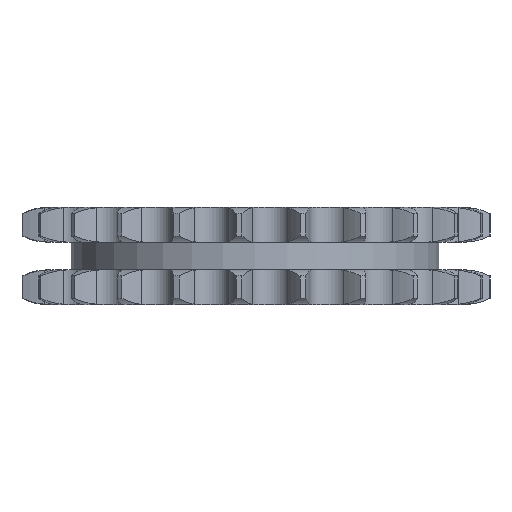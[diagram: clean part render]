
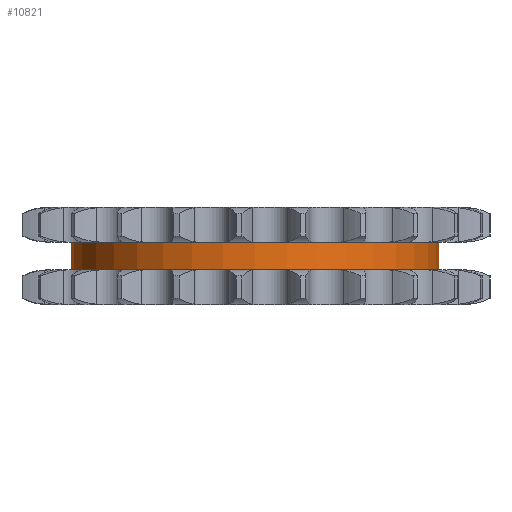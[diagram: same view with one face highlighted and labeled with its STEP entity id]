
A CAD part, left-side view. The second image highlights one B-rep face of the part: STEP entity #10821.
In plain terms, the highlighted cylindrical face has radius 48.292 mm (diameter 96.585 mm), a partial arc.
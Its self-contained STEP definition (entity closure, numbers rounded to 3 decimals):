
#2372=DIRECTION('',(0.,0.,-1.));
#2373=VECTOR('',#2372,7.3);
#2374=CARTESIAN_POINT('',(0.,48.293,3.65));
#2375=LINE('',#2374,#2373);
#2379=CARTESIAN_POINT('',(0.,0.,3.65));
#2380=DIRECTION('',(0.,0.,1.));
#2381=DIRECTION('',(0.,1.,0.));
#2382=AXIS2_PLACEMENT_3D('',#2379,#2380,#2381);
#2387=DIRECTION('',(0.,0.,-1.));
#2388=VECTOR('',#2387,7.3);
#2389=CARTESIAN_POINT('',(0.,-48.293,3.65));
#2390=LINE('',#2389,#2388);
#2394=CARTESIAN_POINT('',(0.,0.,-3.65));
#2395=DIRECTION('',(0.,0.,1.));
#2396=DIRECTION('',(0.,1.,0.));
#2397=AXIS2_PLACEMENT_3D('',#2394,#2395,#2396);
#8370=CARTESIAN_POINT('',(0.,48.293,3.65));
#8371=CARTESIAN_POINT('',(0.,48.293,-3.65));
#8372=VERTEX_POINT('',#8370);
#8373=VERTEX_POINT('',#8371);
#8374=CARTESIAN_POINT('',(0.,-48.293,3.65));
#8375=CARTESIAN_POINT('',(0.,-48.293,-3.65));
#8376=VERTEX_POINT('',#8374);
#8377=VERTEX_POINT('',#8375);
#10809=CARTESIAN_POINT('',(0.,0.,4.015));
#10810=DIRECTION('',(0.,0.,-1.));
#10811=DIRECTION('',(0.,-1.,0.));
#10812=AXIS2_PLACEMENT_3D('',#10809,#10810,#10811);
#10813=CYLINDRICAL_SURFACE('',#10812,48.293);
#10814=ORIENTED_EDGE('',*,*,#10799,.F.);
#10815=ORIENTED_EDGE('',*,*,#10789,.T.);
#10816=ORIENTED_EDGE('',*,*,#10803,.T.);
#10818=ORIENTED_EDGE('',*,*,#10817,.F.);
#10819=EDGE_LOOP('',(#10814,#10815,#10816,#10818));
#10820=FACE_OUTER_BOUND('',#10819,.F.);
#10821=ADVANCED_FACE('',(#10820),#10813,.T.);
#2383=CIRCLE('',#2382,48.293);
#2398=CIRCLE('',#2397,48.293);
#10789=EDGE_CURVE('',#8372,#8376,#2383,.T.);
#10799=EDGE_CURVE('',#8372,#8373,#2375,.T.);
#10803=EDGE_CURVE('',#8376,#8377,#2390,.T.);
#10817=EDGE_CURVE('',#8373,#8377,#2398,.T.);
